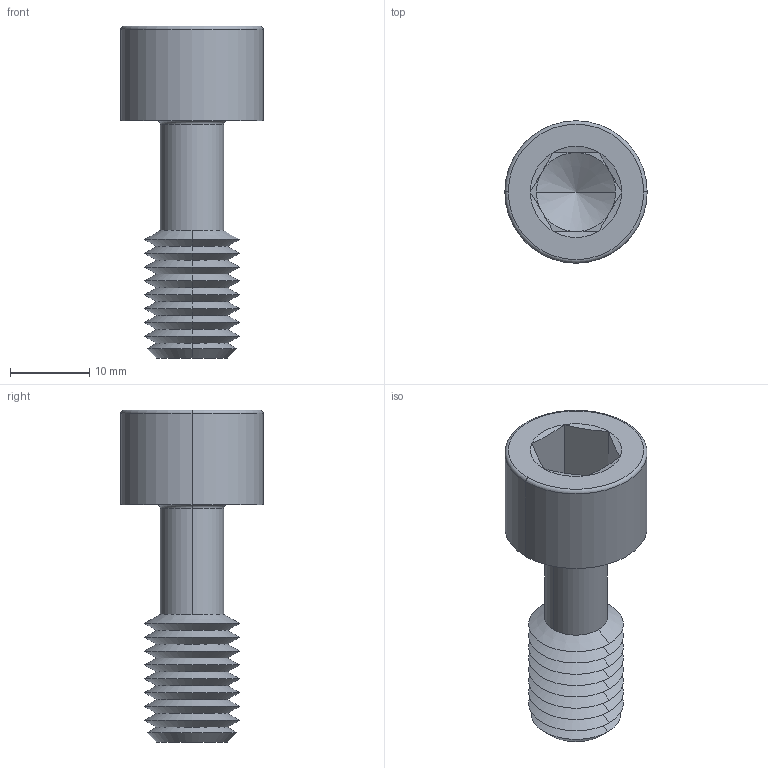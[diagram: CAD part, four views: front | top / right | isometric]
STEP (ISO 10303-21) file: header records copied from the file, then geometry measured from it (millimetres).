
FILE_DESCRIPTION (( 'STEP AP203' ), '1' );
FILE_NAME ('P0154.120-030-BL.step', '2024-06-17T11:35:56', ( '' ), ( '' ), 'SwSTEP 2.0', 'SolidWorks 2019', '' );
FILE_SCHEMA (( 'CONFIG_CONTROL_DESIGN' ));
Length unit declared in the file: millimetre
Products named in the file (1): P0154.120-030-BL
Bounding box: 18 x 18 x 42 mm (x, y, z)
Volume: 4191 mm3; surface area: 2922.7 mm2
Topology: 1 solids, 1 shells, 67 faces, 136 edges, 71 vertices
Faces by surface type: cone 44, plane 15, torus 4, cylinder 4
Entity records: 1791 total; most frequent: DIRECTION 332, CARTESIAN_POINT 303, ORIENTED_EDGE 268, AXIS2_PLACEMENT_3D 136, EDGE_CURVE 134, VERTEX_POINT 71, EDGE_LOOP 69, CIRCLE 68
